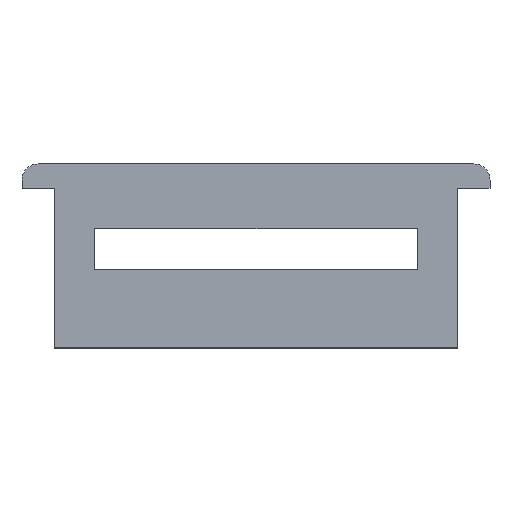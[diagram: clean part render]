
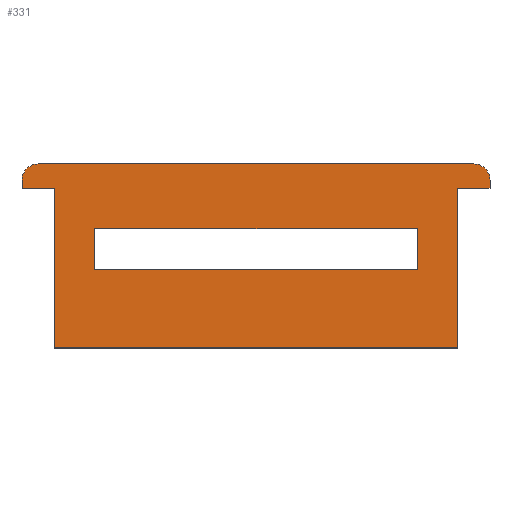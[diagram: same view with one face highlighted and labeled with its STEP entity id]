
A CAD part, top view. The second image highlights one B-rep face of the part: STEP entity #331.
In plain terms, the highlighted planar face has unit normal (0, 0, 1).
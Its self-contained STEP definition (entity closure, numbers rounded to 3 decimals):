
#14=FACE_BOUND('',#53,.T.);
#17=CIRCLE('',#365,2.);
#19=CIRCLE('',#369,2.);
#36=FACE_OUTER_BOUND('',#52,.T.);
#52=EDGE_LOOP('',(#258,#259,#260,#261,#262,#263,#264,#265,#266,#267));
#53=EDGE_LOOP('',(#268,#269,#270,#271));
#58=LINE('',#461,#96);
#62=LINE('',#468,#100);
#65=LINE('',#474,#103);
#67=LINE('',#477,#105);
#70=LINE('',#485,#108);
#73=LINE('',#491,#111);
#76=LINE('',#497,#114);
#78=LINE('',#501,#116);
#83=LINE('',#510,#121);
#85=LINE('',#515,#123);
#89=LINE('',#527,#127);
#93=LINE('',#537,#131);
#96=VECTOR('',#379,10.);
#100=VECTOR('',#385,10.);
#103=VECTOR('',#390,10.);
#105=VECTOR('',#394,10.);
#108=VECTOR('',#399,10.);
#111=VECTOR('',#404,10.);
#114=VECTOR('',#409,10.);
#116=VECTOR('',#413,10.);
#121=VECTOR('',#420,10.);
#123=VECTOR('',#424,10.);
#127=VECTOR('',#436,10.);
#131=VECTOR('',#448,10.);
#134=VERTEX_POINT('',#458);
#135=VERTEX_POINT('',#460);
#137=VERTEX_POINT('',#466);
#139=VERTEX_POINT('',#472);
#142=VERTEX_POINT('',#482);
#143=VERTEX_POINT('',#484);
#145=VERTEX_POINT('',#490);
#147=VERTEX_POINT('',#496);
#148=VERTEX_POINT('',#500);
#151=VERTEX_POINT('',#508);
#153=VERTEX_POINT('',#514);
#155=VERTEX_POINT('',#520);
#157=VERTEX_POINT('',#526);
#159=VERTEX_POINT('',#532);
#162=EDGE_CURVE('',#135,#134,#58,.T.);
#166=EDGE_CURVE('',#134,#137,#62,.T.);
#169=EDGE_CURVE('',#137,#139,#65,.T.);
#171=EDGE_CURVE('',#139,#135,#67,.T.);
#174=EDGE_CURVE('',#143,#142,#70,.T.);
#177=EDGE_CURVE('',#145,#143,#73,.T.);
#180=EDGE_CURVE('',#147,#145,#76,.T.);
#182=EDGE_CURVE('',#148,#147,#78,.T.);
#187=EDGE_CURVE('',#142,#151,#83,.T.);
#189=EDGE_CURVE('',#153,#148,#85,.T.);
#192=EDGE_CURVE('',#155,#153,#17,.T.);
#195=EDGE_CURVE('',#157,#155,#89,.T.);
#198=EDGE_CURVE('',#159,#157,#19,.T.);
#201=EDGE_CURVE('',#151,#159,#93,.T.);
#258=ORIENTED_EDGE('',*,*,#182,.T.);
#259=ORIENTED_EDGE('',*,*,#180,.T.);
#260=ORIENTED_EDGE('',*,*,#177,.T.);
#261=ORIENTED_EDGE('',*,*,#174,.T.);
#262=ORIENTED_EDGE('',*,*,#187,.T.);
#263=ORIENTED_EDGE('',*,*,#201,.T.);
#264=ORIENTED_EDGE('',*,*,#198,.T.);
#265=ORIENTED_EDGE('',*,*,#195,.T.);
#266=ORIENTED_EDGE('',*,*,#192,.T.);
#267=ORIENTED_EDGE('',*,*,#189,.T.);
#268=ORIENTED_EDGE('',*,*,#162,.T.);
#269=ORIENTED_EDGE('',*,*,#166,.T.);
#270=ORIENTED_EDGE('',*,*,#169,.T.);
#271=ORIENTED_EDGE('',*,*,#171,.T.);
#298=PLANE('',#371);
#331=ADVANCED_FACE('',(#36,#14),#298,.T.);
#365=AXIS2_PLACEMENT_3D('',#521,#430,#431);
#369=AXIS2_PLACEMENT_3D('',#533,#442,#443);
#371=AXIS2_PLACEMENT_3D('',#538,#449,#450);
#379=DIRECTION('',(1.,0.,0.));
#385=DIRECTION('',(0.,-1.,0.));
#390=DIRECTION('',(-1.,0.,0.));
#394=DIRECTION('',(0.,1.,0.));
#399=DIRECTION('',(0.,1.,0.));
#404=DIRECTION('',(1.,0.,0.));
#409=DIRECTION('',(0.,-1.,0.));
#413=DIRECTION('',(1.,0.,0.));
#420=DIRECTION('',(1.,0.,0.));
#424=DIRECTION('',(0.,-1.,0.));
#430=DIRECTION('center_axis',(0.,0.,1.));
#431=DIRECTION('ref_axis',(0.,1.,0.));
#436=DIRECTION('',(-1.,0.,0.));
#442=DIRECTION('center_axis',(0.,0.,1.));
#443=DIRECTION('ref_axis',(1.,0.,0.));
#448=DIRECTION('',(0.,1.,0.));
#449=DIRECTION('center_axis',(0.,0.,1.));
#450=DIRECTION('ref_axis',(1.,0.,0.));
#458=CARTESIAN_POINT('',(20.,-5.,50.));
#460=CARTESIAN_POINT('',(-20.,-5.,50.));
#461=CARTESIAN_POINT('',(10.,-5.,50.));
#466=CARTESIAN_POINT('',(20.,-10.1,50.));
#468=CARTESIAN_POINT('',(20.,-4.318,50.));
#472=CARTESIAN_POINT('',(-20.,-10.1,50.));
#474=CARTESIAN_POINT('',(-10.,-10.1,50.));
#477=CARTESIAN_POINT('',(-20.,-1.768,50.));
#482=CARTESIAN_POINT('',(25.,0.,50.));
#484=CARTESIAN_POINT('',(25.,-19.8,50.));
#485=CARTESIAN_POINT('',(25.,0.,50.));
#490=CARTESIAN_POINT('',(-25.,-19.8,50.));
#491=CARTESIAN_POINT('',(25.,-19.8,50.));
#496=CARTESIAN_POINT('',(-25.,0.,50.));
#497=CARTESIAN_POINT('',(-25.,-19.8,50.));
#500=CARTESIAN_POINT('',(-29.,0.,50.));
#501=CARTESIAN_POINT('',(-29.,0.,50.));
#508=CARTESIAN_POINT('',(29.,0.,50.));
#510=CARTESIAN_POINT('',(-29.,0.,50.));
#514=CARTESIAN_POINT('',(-29.,1.,50.));
#515=CARTESIAN_POINT('',(-29.,1.,50.));
#520=CARTESIAN_POINT('',(-27.,3.,50.));
#521=CARTESIAN_POINT('Origin',(-27.,1.,50.));
#526=CARTESIAN_POINT('',(27.,3.,50.));
#527=CARTESIAN_POINT('',(27.,3.,50.));
#532=CARTESIAN_POINT('',(29.,1.,50.));
#533=CARTESIAN_POINT('Origin',(27.,1.,50.));
#537=CARTESIAN_POINT('',(29.,0.,50.));
#538=CARTESIAN_POINT('Origin',(0.,1.463,50.));
